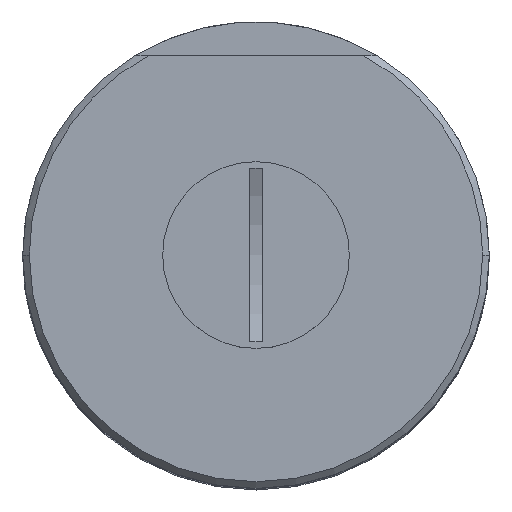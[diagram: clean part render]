
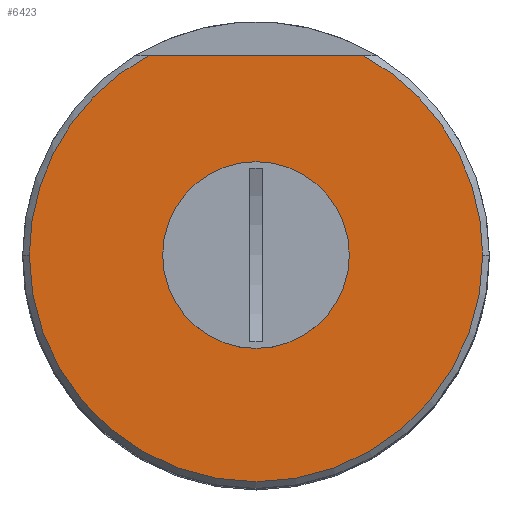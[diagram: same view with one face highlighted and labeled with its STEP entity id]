
A CAD part, top view. The second image highlights one B-rep face of the part: STEP entity #6423.
In plain terms, the highlighted planar face has unit normal (0, 0, 1).
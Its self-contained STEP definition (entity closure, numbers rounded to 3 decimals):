
#319 = CARTESIAN_POINT ( 'NONE',  ( -12.25, 0., 0. ) ) ;
#404 = CARTESIAN_POINT ( 'NONE',  ( 0., 0., 0. ) ) ;
#511 = EDGE_CURVE ( 'NONE', #2074, #6621, #1334, .T. ) ;
#524 = EDGE_CURVE ( 'NONE', #2597, #2074, #2369, .T. ) ;
#577 = DIRECTION ( 'NONE',  ( 1., 0., 0. ) ) ;
#873 = CARTESIAN_POINT ( 'NONE',  ( -16., 30., 0. ) ) ;
#1037 = EDGE_CURVE ( 'NONE', #6621, #5607, #2942, .T. ) ;
#1126 = ORIENTED_EDGE ( 'NONE', *, *, #1129, .F. ) ;
#1129 = EDGE_CURVE ( 'NONE', #2597, #5607, #1224, .T. ) ;
#1142 = DIRECTION ( 'NONE',  ( 0., 0., 1. ) ) ;
#1224 = LINE ( 'NONE', #7605, #5968 ) ;
#1245 = AXIS2_PLACEMENT_3D ( 'NONE', #2758, #4667, #4352 ) ;
#1317 = EDGE_LOOP ( 'NONE', ( #3266, #7809 ) ) ;
#1322 = VERTEX_POINT ( 'NONE', #319 ) ;
#1334 = CIRCLE ( 'NONE', #6082, 34. ) ;
#1758 = AXIS2_PLACEMENT_3D ( 'NONE', #3132, #1889, #6755 ) ;
#1859 = DIRECTION ( 'NONE',  ( 1., 0., 0. ) ) ;
#1889 = DIRECTION ( 'NONE',  ( 0., 0., 1. ) ) ;
#1952 = CARTESIAN_POINT ( 'NONE',  ( -34., 0., 0. ) ) ;
#2004 = EDGE_CURVE ( 'NONE', #4605, #1322, #2137, .T. ) ;
#2074 = VERTEX_POINT ( 'NONE', #1952 ) ;
#2137 = CIRCLE ( 'NONE', #5977, 12.25 ) ;
#2369 = CIRCLE ( 'NONE', #5934, 34. ) ;
#2597 = VERTEX_POINT ( 'NONE', #873 ) ;
#2758 = CARTESIAN_POINT ( 'NONE',  ( 0., 0., 0. ) ) ;
#2942 = CIRCLE ( 'NONE', #7671, 34. ) ;
#3050 = ORIENTED_EDGE ( 'NONE', *, *, #511, .T. ) ;
#3132 = CARTESIAN_POINT ( 'NONE',  ( 0., 0., 0. ) ) ;
#3266 = ORIENTED_EDGE ( 'NONE', *, *, #2004, .F. ) ;
#3392 = FACE_BOUND ( 'NONE', #1317, .T. ) ;
#3512 = EDGE_CURVE ( 'NONE', #1322, #4605, #6765, .T. ) ;
#4253 = CARTESIAN_POINT ( 'NONE',  ( 12.25, 0., 0. ) ) ;
#4347 = DIRECTION ( 'NONE',  ( 0., 0., 1. ) ) ;
#4349 = CARTESIAN_POINT ( 'NONE',  ( 16., 30., 0. ) ) ;
#4352 = DIRECTION ( 'NONE',  ( 1., 0., 0. ) ) ;
#4605 = VERTEX_POINT ( 'NONE', #4253 ) ;
#4618 = FACE_OUTER_BOUND ( 'NONE', #5777, .T. ) ;
#4667 = DIRECTION ( 'NONE',  ( 0., 0., 1. ) ) ;
#4713 = DIRECTION ( 'NONE',  ( 0., 0., 1. ) ) ;
#4990 = CARTESIAN_POINT ( 'NONE',  ( 0., 0., 0. ) ) ;
#5351 = DIRECTION ( 'NONE',  ( 1., 0., 0. ) ) ;
#5447 = ORIENTED_EDGE ( 'NONE', *, *, #524, .T. ) ;
#5607 = VERTEX_POINT ( 'NONE', #4349 ) ;
#5777 = EDGE_LOOP ( 'NONE', ( #1126, #5447, #3050, #7488 ) ) ;
#5888 = CARTESIAN_POINT ( 'NONE',  ( 0., 0., 0. ) ) ;
#5934 = AXIS2_PLACEMENT_3D ( 'NONE', #4990, #7509, #1859 ) ;
#5968 = VECTOR ( 'NONE', #6332, 1000. ) ;
#5977 = AXIS2_PLACEMENT_3D ( 'NONE', #5888, #4713, #5351 ) ;
#6082 = AXIS2_PLACEMENT_3D ( 'NONE', #8048, #4347, #6814 ) ;
#6332 = DIRECTION ( 'NONE',  ( 1., 0., 0. ) ) ;
#6423 = ADVANCED_FACE ( 'NONE', ( #3392, #4618 ), #7810, .T. ) ;
#6621 = VERTEX_POINT ( 'NONE', #6966 ) ;
#6755 = DIRECTION ( 'NONE',  ( 1., 0., 0. ) ) ;
#6765 = CIRCLE ( 'NONE', #1758, 12.25 ) ;
#6814 = DIRECTION ( 'NONE',  ( 1., 0., 0. ) ) ;
#6966 = CARTESIAN_POINT ( 'NONE',  ( 34., 0., 0. ) ) ;
#7488 = ORIENTED_EDGE ( 'NONE', *, *, #1037, .T. ) ;
#7509 = DIRECTION ( 'NONE',  ( 0., 0., 1. ) ) ;
#7605 = CARTESIAN_POINT ( 'NONE',  ( -20., 30., 0. ) ) ;
#7671 = AXIS2_PLACEMENT_3D ( 'NONE', #404, #1142, #577 ) ;
#7809 = ORIENTED_EDGE ( 'NONE', *, *, #3512, .F. ) ;
#7810 = PLANE ( 'NONE',  #1245 ) ;
#8048 = CARTESIAN_POINT ( 'NONE',  ( 0., 0., 0. ) ) ;
